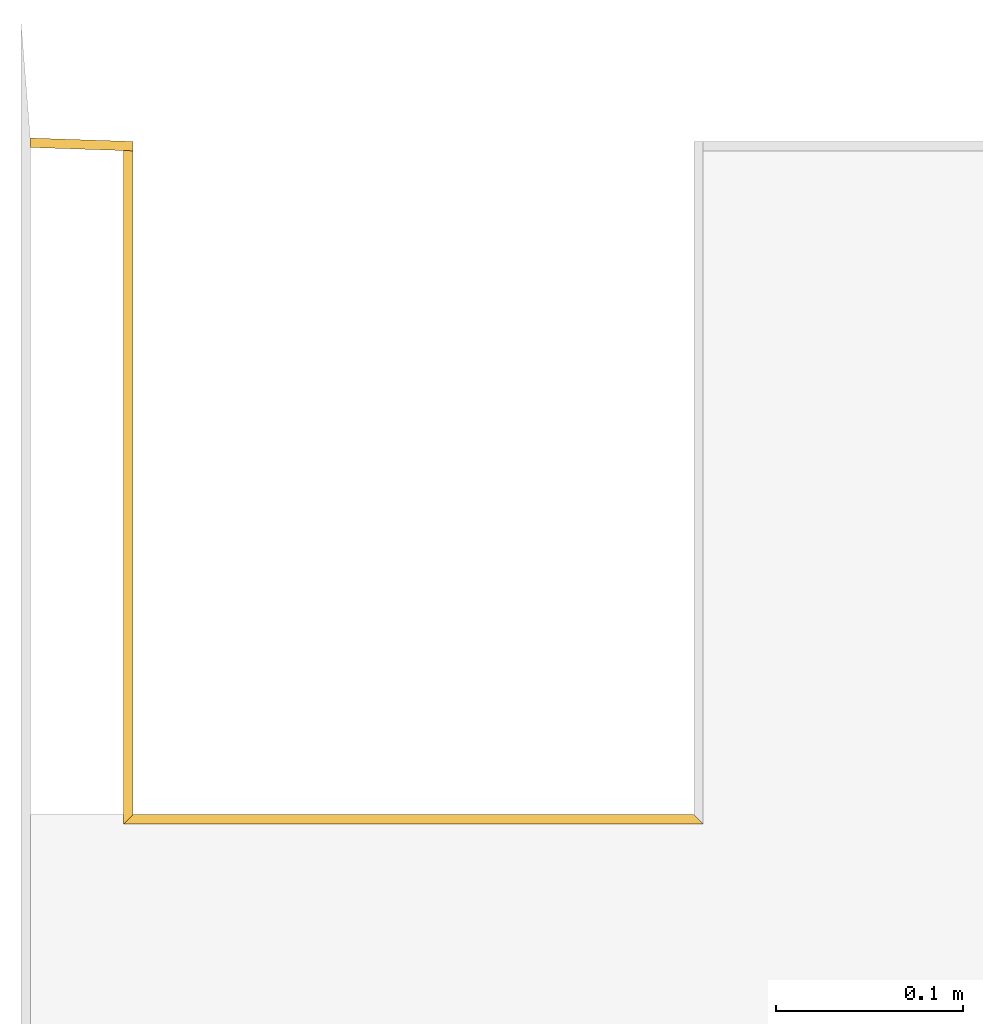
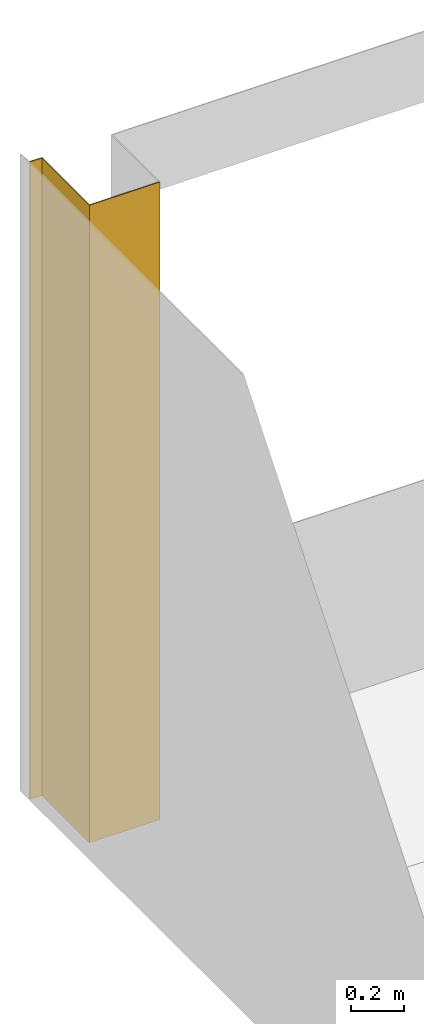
# One storey, part 7 of 16: 3 coverings.
"""IFC2X3 building model written with IfcOpenShell, lengths in millimetres."""

from ifc_helpers import new_model, entity, si_unit, converted_unit, derived_unit, money_unit, direction, frame, origin_with_axes, place, context, subcontext, project, spatial, polyline, outline, extrude, material, type_object, element, save


model = new_model("IFC2X3")

# Units and contexts
model_context = context("Model", 3, precision=0.01, world=origin_with_axes(), true_north=direction((0.0, 1.0)))
body_context = subcontext(model_context, "Body", "Model", "MODEL_VIEW")
ifc_project = project(units=[si_unit("LENGTHUNIT", "METRE", prefix="MILLI"), si_unit("AREAUNIT", "SQUARE_METRE"), si_unit("VOLUMEUNIT", "CUBIC_METRE"), converted_unit("PLANEANGLEUNIT", "DEGREE", entity("IfcPlaneAngleMeasure", 0.0174532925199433), si_unit("PLANEANGLEUNIT", "RADIAN"), dimensions=[0, 0, 0, 0, 0, 0, 0]), money_unit("EUR"), converted_unit("TIMEUNIT", "Year", entity("IfcTimeMeasure", 31556926.0), si_unit("TIMEUNIT", "SECOND"), dimensions=[0, 0, 1, 0, 0, 0, 0]), si_unit("MASSUNIT", "GRAM", prefix="KILO"), si_unit("THERMODYNAMICTEMPERATUREUNIT", "DEGREE_CELSIUS"), si_unit("LUMINOUSINTENSITYUNIT", "LUMEN"), si_unit("ENERGYUNIT", "JOULE", prefix="MEGA"), derived_unit("THERMALCONDUCTANCEUNIT", [(si_unit("POWERUNIT", "WATT"), 1), (si_unit("LENGTHUNIT", "METRE"), -1), (si_unit("THERMODYNAMICTEMPERATUREUNIT", "KELVIN"), -1)]), derived_unit("SPECIFICHEATCAPACITYUNIT", [(si_unit("ENERGYUNIT", "JOULE"), 1), (si_unit("MASSUNIT", "GRAM", prefix="KILO"), -1), (si_unit("THERMODYNAMICTEMPERATUREUNIT", "KELVIN"), -1)]), derived_unit("MASSDENSITYUNIT", [(si_unit("MASSUNIT", "GRAM", prefix="KILO"), 1), (si_unit("VOLUMEUNIT", "CUBIC_METRE"), -1)])], contexts=[model_context])

# Site, building, storey
site_placement = place(None, origin_with_axes())
site = spatial("IfcSite", under=ifc_project, at=site_placement, Name="Paldiski mnt 245/1, Tallinn, Harjumaa", CompositionType="COMPLEX")
building_placement = place(site_placement, origin_with_axes())
building = spatial("IfcBuilding", under=site, at=building_placement, Name="RKAS Hoone üldnimetus (kasutust iseloomustav) -> IFC Project Manager -> SOLIBRI", CompositionType="ELEMENT")
storey_placement = place(building_placement, frame((0.0, 0.0, 3300.0), z_axis=(0.0, 0.0, 1.0), x_axis=(1.0, 0.0, 0.0)))
storey = spatial("IfcBuildingStorey", under=building, at=storey_placement, Name="Teine korrus", CompositionType="ELEMENT", Elevation=3300.0)

# Coverings
ifc_material = material(Name="SA- Värv SM5(valge)")
covering_type = type_object("IfcCoveringType", Name="SA- Värv SM5(valge) 5", PredefinedType="CLADDING")
covering_1_placement = place(storey_placement, frame((-47590.0, -469.9999999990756, 0.0), z_axis=(0.0, 0.0, 1.0), x_axis=(1.0, 0.0, 0.0)))
element("IfcCovering", 1, at=covering_1_placement, inside=storey, type_object=covering_type, material=ifc_material, Name="SM5", PredefinedType="CLADDING", context=body_context, shape_type="SweptSolid", body=[
    extrude(outline(polyline([(-5.000000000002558, -5.000000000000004), (305.0000000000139, -5.000000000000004), (300.0000000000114, 0.0), (0.0, 0.0), (-5.000000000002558, -5.000000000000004)])), origin_with_axes(), (0.0, 0.0, 1.0), 2950.0),
])
covering_2_placement = place(storey_placement, frame((-47589.99999999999, -109.9999999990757, 0.0), z_axis=(0.0, 0.0, 1.0), x_axis=(0.0, -1.0, 0.0)))
element("IfcCovering", 2, at=covering_2_placement, inside=storey, type_object=covering_type, material=ifc_material, Name="SM5", PredefinedType="CLADDING", context=body_context, shape_type="SweptSolid", body=[
    extrude(outline(polyline([(0.0, -5.000000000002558), (364.9999999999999, -5.000000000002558), (359.9999999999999, 0.0), (0.0, 0.0), (0.0, -5.000000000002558)])), origin_with_axes(), (0.0, 0.0, 1.0), 2950.0),
])
covering_3_placement = place(storey_placement, frame((-47649.99999999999, -107.9999999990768, 0.0), z_axis=(0.0, 0.0, 1.0), x_axis=(0.9994449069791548, -0.03331483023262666, 0.0)))
element("IfcCovering", 3, at=covering_3_placement, inside=storey, type_object=covering_type, material=ifc_material, Name="SM5", PredefinedType="CLADDING", context=body_context, shape_type="SweptSolid", body=[
    extrude(outline(polyline([(5.169443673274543, -5.000000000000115), (60.03332407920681, -5.000000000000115), (60.03332407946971, 0.0), (5.002777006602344, 0.0), (5.169443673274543, -5.000000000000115)])), origin_with_axes(), (0.0, 0.0, 1.0), 2950.0),
])

save(model, "model.ifc")
